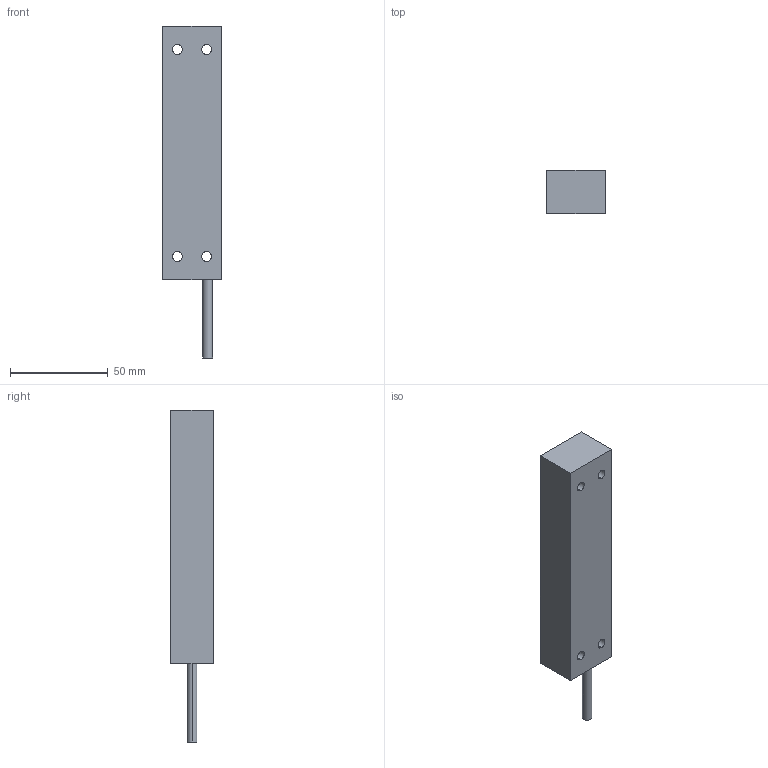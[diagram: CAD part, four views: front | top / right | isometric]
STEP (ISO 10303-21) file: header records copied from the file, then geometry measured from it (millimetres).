
FILE_DESCRIPTION (( 'STEP AP214' ), '1' );
FILE_NAME ('rsp1 (up to 50 kg).STEP', '2012-08-28T22:11:35', ( '' ), ( '' ), 'SwSTEP 2.0', 'SolidWorks 2009', '' );
FILE_SCHEMA (( 'AUTOMOTIVE_DESIGN' ));
Length unit declared in the file: millimetre
Products named in the file (1): rsp1 (up to 50 kg)
Bounding box: 30 x 22 x 170 mm (x, y, z)
Volume: 84857.5 mm3; surface area: 16693.5 mm2
Topology: 1 solids, 1 shells, 17 faces, 42 edges, 28 vertices
Faces by surface type: cylinder 10, plane 7
Entity records: 643 total; most frequent: DIRECTION 98, CARTESIAN_POINT 88, ORIENTED_EDGE 84, EDGE_CURVE 42, AXIS2_PLACEMENT_3D 38, VERTEX_POINT 28, EDGE_LOOP 26, LINE 22
